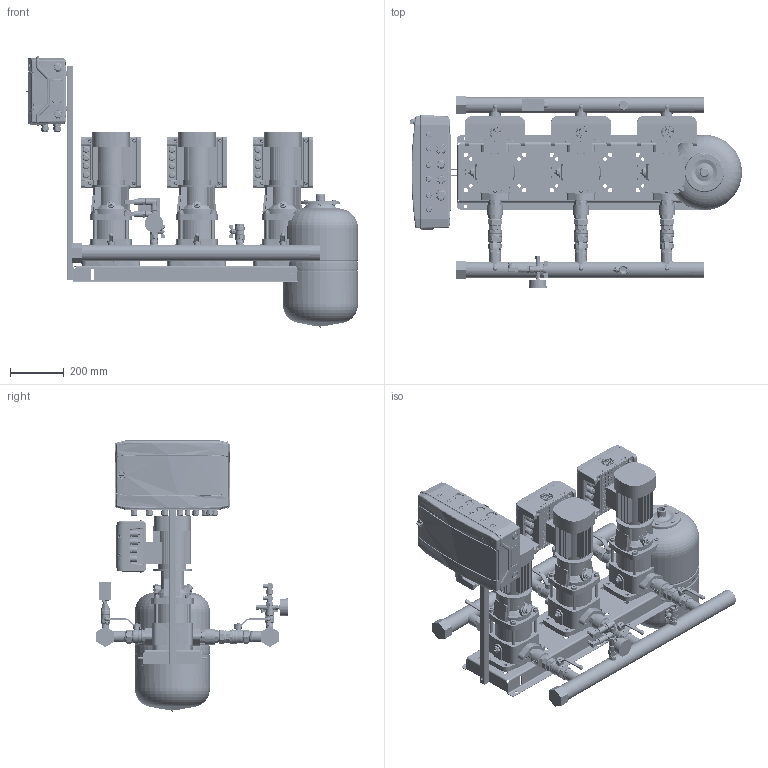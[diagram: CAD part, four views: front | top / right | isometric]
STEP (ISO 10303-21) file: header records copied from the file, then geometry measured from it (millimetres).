
FILE_DESCRIPTION(('CATIA V5 STEP Exchange','CAx-IF Rec.Pracs.--- Model Styling and Organization---1.4--- 2014-01-23','CAx-IF Rec.Pracs.---3D Tessellated Data Validation Properties---0.5---2014-09-14'),'2;1');
FILE_NAME('C:\Users\78432\YandexDisk\Drawings and 3D\3D Hydro Booster\Hydro-ME 3D\Hydro Models\Hydro ME 3 CRV1-xx\Hydro ME 3 CRVE1-6.stp','2023-09-21T07:57:06+00:00',('none'),('none'),'CATIA Version 5-6 Release 2019 SP6','CATIA V5 STEP AP242 v1','none');
FILE_SCHEMA(('AP242_MANAGED_MODEL_BASED_3D_ENGINEERING_MIM_LF {1 0 10303 442 1 1 4}'));
Products named in the file (46): Hydro ME 3 CRVE1-6; 92051012; CRV1-6 Set; CRV 1-6_A_Oval_0.37kW; Base; Oval_Flange; Oval_Flange.2; Sleeve; Pumphead; Staybolt.1; Staybolt.2; Staybolt.3; Staybolt.4; Plug; AirVent; Motor; 92807543_9022-04; Hydraulica NY DN32 1,25 PN16; DN32_FM_LV_47.303.32; 92814060_9013-04; SAJ PDH30 0,75-2,2kW; 97941451; 405801; 91040265; 91040272; 97941488; 00ID7526; Holder and CP 18mod; 92878909; Control ME (18mod); 2 sensors + manometer cpl.; manometr 16 bar; RPD-I-G1_2; 9021-01; 2070 1/2-1/2; _2020 1/2-1/2; 98594078; Tank 24L cpl.; DN20_FF_BF_47.300.20; WAV-24(D140 1'')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
Assembly tree (55 placements, depth 4):
  Hydro ME 3 CRVE1-6
    92051012
    CRV1-6 Set  x3
      CRV 1-6_A_Oval_0.37kW
        Base
        Oval_Flange
        Oval_Flange.2
        Sleeve
        Pumphead
        Staybolt.1
        Staybolt.2
        Staybolt.3
        Staybolt.4
        Plug
        AirVent
        Motor
      92807543_9022-04
      Hydraulica NY DN32 1,25 PN16
      DN32_FM_LV_47.303.32
      92814060_9013-04
      SAJ PDH30 0,75-2,2kW
    97941451  x2
      405801
      91040265
      91040272
      97941488
    00ID7526  x2
    Holder and CP 18mod
      92878909
      Control ME (18mod)
    2 sensors + manometer cpl.
      manometr 16 bar
      RPD-I-G1_2  x2
      9021-01
      2070 1/2-1/2
      _2020 1/2-1/2
      98594078
    Tank 24L cpl.
      DN20_FF_BF_47.300.20
      9021-03
    Relay cpl.
      Relay RD-2R
      DN20_FF_BF_47.300.20
      2530 3/4-1/2
      _2530 1/2-1/4
    91078139
  WAV-24(D140 1'')
Bounding box: 1236.82 x 712 x 1009.9 mm (x, y, z)
Volume: 56197228.1 mm3; surface area: 6819974.3 mm2
Topology: 215 solids, 251 shells, 24622 faces, 71863 edges, 48120 vertices
Faces by surface type: plane 10965, cylinder 6026, bspline 5529, cone 1553, torus 384, sphere 165
Entity records: 542620 total; most frequent: CARTESIAN_POINT 268318, ORIENTED_EDGE 70159, EDGE_CURVE 35561, DIRECTION 33140, VERTEX_POINT 23680, VECTOR 15487, LINE 15487, EDGE_LOOP 13893
